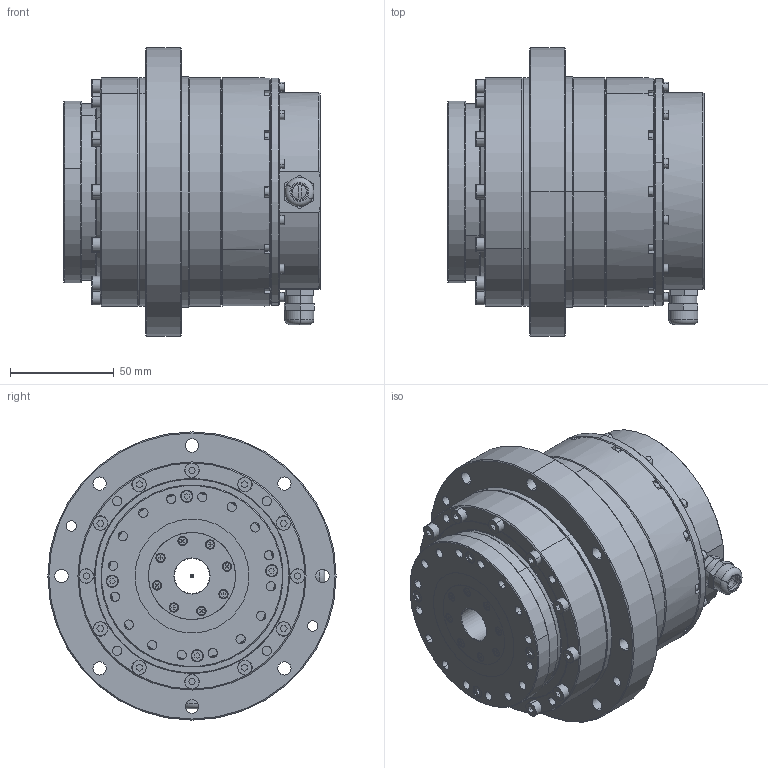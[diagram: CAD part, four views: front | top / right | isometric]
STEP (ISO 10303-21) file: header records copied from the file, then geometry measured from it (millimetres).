
FILE_DESCRIPTION (( 'STEP AP214' ), '1' );
FILE_NAME ('KAH-25CL3AA 总装配图（带法兰侧面出线）.STEP', '2021-08-25T06:12:13', ( '' ), ( '' ), 'SwSTEP 2.0', 'SolidWorks 2020', '' );
FILE_SCHEMA (( 'AUTOMOTIVE_DESIGN' ));
Length unit declared in the file: millimetre
Products named in the file (1): KAH-25CL3AA 总装配图（带法兰侧面出线）
Bounding box: 123.5 x 139 x 139 mm (x, y, z)
Volume: 463920.7 mm3; surface area: 229995.1 mm2
Topology: 94 solids, 94 shells, 2443 faces, 5671 edges, 3487 vertices
Faces by surface type: cylinder 905, plane 779, cone 419, torus 218, sphere 88, bspline 34
Entity records: 98013 total; most frequent: CARTESIAN_POINT 13765, DIRECTION 12965, ORIENTED_EDGE 11154, EDGE_CURVE 5577, AXIS2_PLACEMENT_3D 5233, VERTEX_POINT 3487, EDGE_LOOP 2876, CIRCLE 2823
